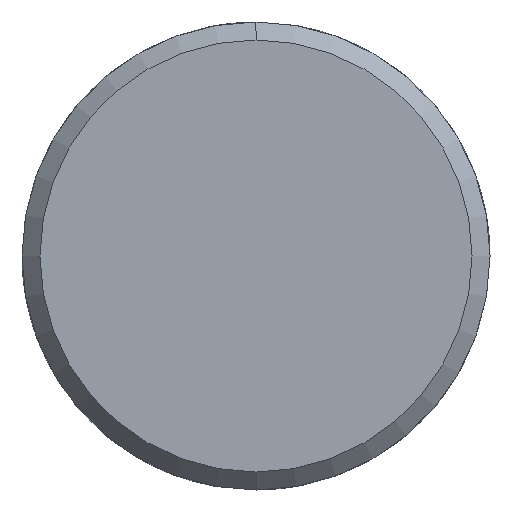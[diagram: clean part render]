
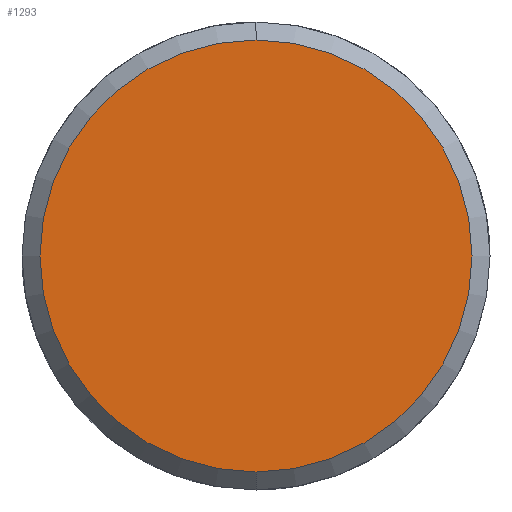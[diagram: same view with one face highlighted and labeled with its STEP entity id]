
A CAD part, left-side view. The second image highlights one B-rep face of the part: STEP entity #1293.
In plain terms, the highlighted planar face has unit normal (-1, 0, 0).
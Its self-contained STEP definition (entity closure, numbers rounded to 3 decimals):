
#1225=CARTESIAN_POINT('Vertex',(-5.,0.,-12.)) ;
#1228=CARTESIAN_POINT('Axis2P3D Location',(-5.,0.,0.)) ;
#1232=CARTESIAN_POINT('Vertex',(-5.,12.,0.)) ;
#1235=CARTESIAN_POINT('Axis2P3D Location',(-5.,0.,0.)) ;
#1239=CARTESIAN_POINT('Vertex',(-5.,0.,12.)) ;
#1261=CARTESIAN_POINT('Axis2P3D Location',(-5.,0.,0.)) ;
#1265=CARTESIAN_POINT('Vertex',(-5.,-12.,0.)) ;
#1268=CARTESIAN_POINT('Axis2P3D Location',(-5.,0.,0.)) ;
#1282=CARTESIAN_POINT('Axis2P3D Location',(-5.,0.,0.)) ;
#1229=DIRECTION('Axis2P3D Direction',(1.,0.,-0.)) ;
#1236=DIRECTION('Axis2P3D Direction',(1.,0.,-0.)) ;
#1262=DIRECTION('Axis2P3D Direction',(1.,0.,-0.)) ;
#1269=DIRECTION('Axis2P3D Direction',(1.,0.,-0.)) ;
#1283=DIRECTION('Axis2P3D Direction',(1.,0.,-0.)) ;
#1284=DIRECTION('Axis2P3D XDirection',(-0.,0.,-1.)) ;
#1230=AXIS2_PLACEMENT_3D('Circle Axis2P3D',#1228,#1229,$) ;
#1237=AXIS2_PLACEMENT_3D('Circle Axis2P3D',#1235,#1236,$) ;
#1263=AXIS2_PLACEMENT_3D('Circle Axis2P3D',#1261,#1262,$) ;
#1270=AXIS2_PLACEMENT_3D('Circle Axis2P3D',#1268,#1269,$) ;
#1285=AXIS2_PLACEMENT_3D('Plane Axis2P3D',#1282,#1283,#1284) ;
#1288=ORIENTED_EDGE('',*,*,#1234,.F.) ;
#1289=ORIENTED_EDGE('',*,*,#1272,.F.) ;
#1290=ORIENTED_EDGE('',*,*,#1267,.F.) ;
#1291=ORIENTED_EDGE('',*,*,#1241,.F.) ;
#1293=ADVANCED_FACE('351-16X26X90',(#1292),#1286,.F.) ;
#1231=CIRCLE('generated circle',#1230,12.) ;
#1238=CIRCLE('generated circle',#1237,12.) ;
#1264=CIRCLE('generated circle',#1263,12.) ;
#1271=CIRCLE('generated circle',#1270,12.) ;
#1234=EDGE_CURVE('',#1226,#1233,#1231,.T.) ;
#1241=EDGE_CURVE('',#1233,#1240,#1238,.T.) ;
#1267=EDGE_CURVE('',#1240,#1266,#1264,.T.) ;
#1272=EDGE_CURVE('',#1266,#1226,#1271,.T.) ;
#1287=EDGE_LOOP('',(#1288,#1289,#1290,#1291)) ;
#1292=FACE_OUTER_BOUND('',#1287,.T.) ;
#1286=PLANE('Plane',#1285) ;
#1226=VERTEX_POINT('',#1225) ;
#1233=VERTEX_POINT('',#1232) ;
#1240=VERTEX_POINT('',#1239) ;
#1266=VERTEX_POINT('',#1265) ;
